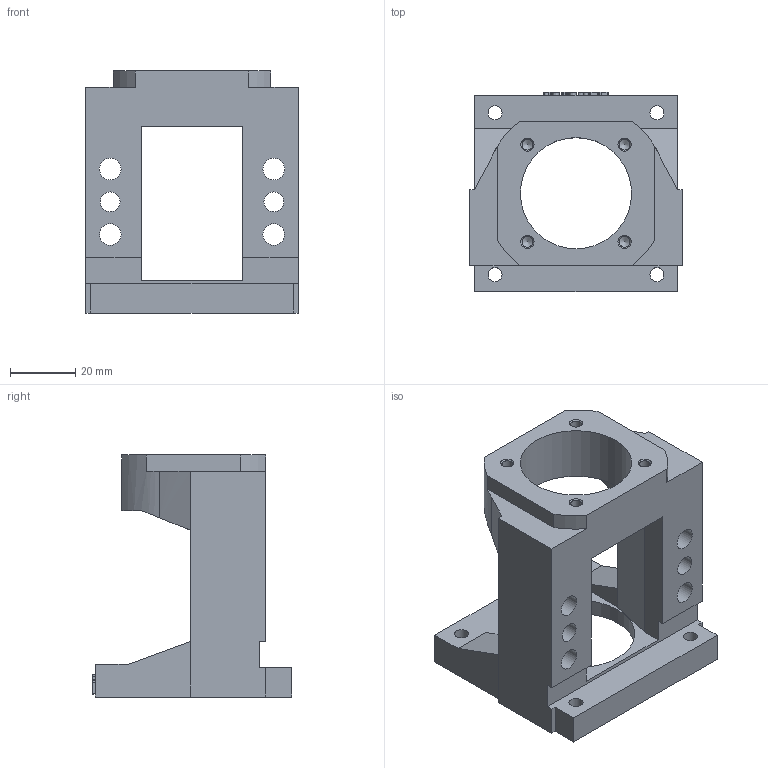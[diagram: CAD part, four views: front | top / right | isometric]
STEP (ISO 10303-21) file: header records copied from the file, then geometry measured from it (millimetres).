
FILE_DESCRIPTION(/* description */ (''),/* implementation_level */ '2;1');
FILE_NAME(/* name */ 'M60D-FK10-A.stp',/* time_stamp */ '2016-10-27T09:55:24+08:00',/* author */ (''),/* organization */ (''),/* preprocessor_version */ 'ST-DEVELOPER v15',/* originating_system */ 'SIEMENS PLM Software NX 8.5',/* authorisation */ '');
FILE_SCHEMA (('CONFIG_CONTROL_DESIGN'));
Length unit declared in the file: millimetre
Products named in the file (2): Fastener Assembly 1; MBA10-D
Assembly tree (1 placements, depth 2):
  MBA10-D
    Fastener Assembly 1
Bounding box: 65 x 61 x 74 mm (x, y, z)
Volume: 77941 mm3; surface area: 27266.5 mm2
Topology: 1 solids, 1 shells, 188 faces, 506 edges, 336 vertices
Faces by surface type: plane 106, extrusion 41, cylinder 29, cone 12
Full cylindrical faces by diameter (mm): 3.3 x4, 4.3 x4, 6 x2, 6.6 x6, 11 x4, 34 x1, 36 x1, 50 x1
Entity records: 6325 total; most frequent: CARTESIAN_POINT 1902, ORIENTED_EDGE 910, DIRECTION 674, EDGE_CURVE 455, VERTEX_POINT 324, EDGE_LOOP 265, VECTOR 244, B_SPLINE_CURVE_WITH_KNOTS 223
